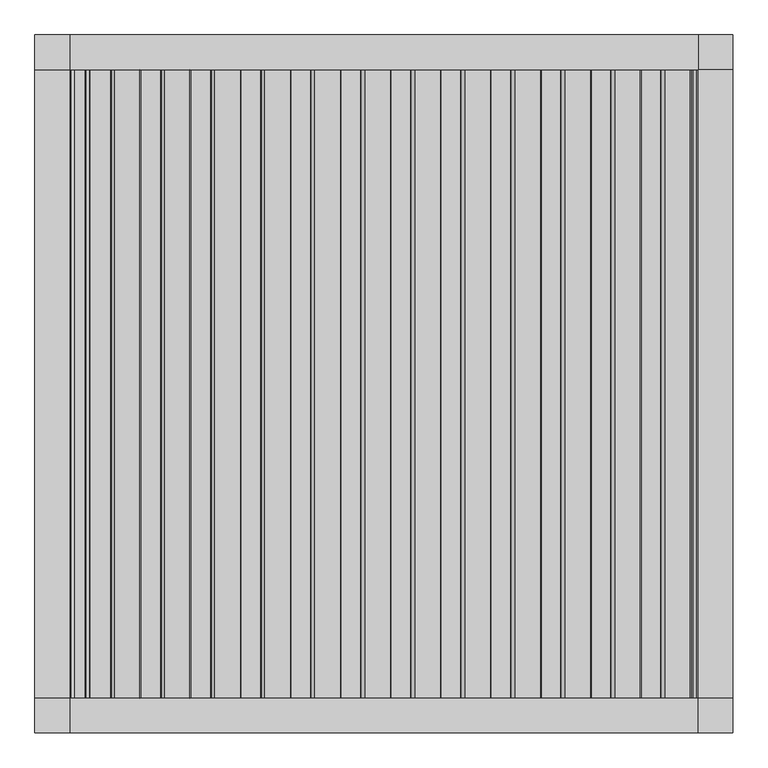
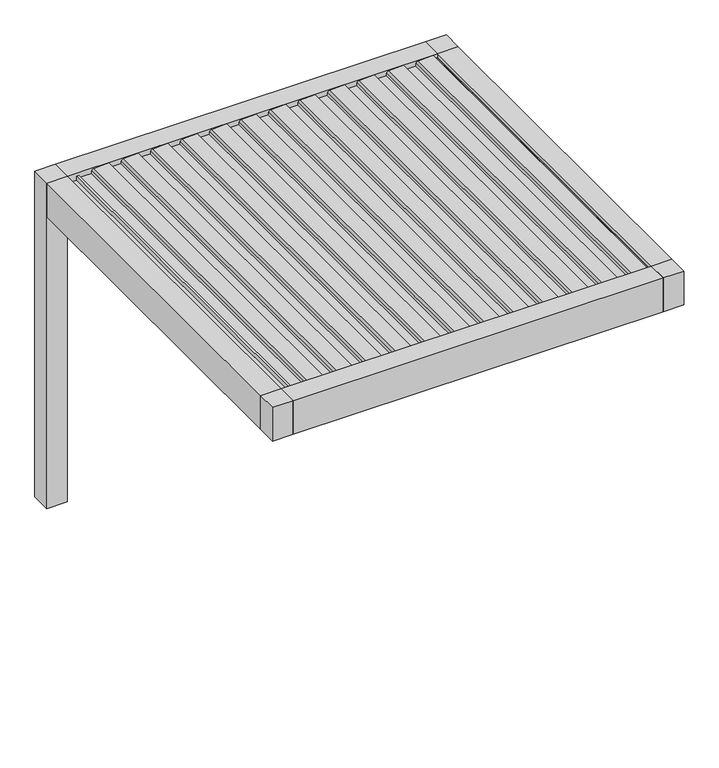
"""IFC4 building model written with IfcOpenShell, lengths in millimetres: proxy geometry, Renson_Camargue_Facade-Mounted_Patio covers : Renson_Camargue_Facade-Mounted_Patio covers."""

from ifc_helpers import new_model, si_unit, point, frame, frame_2d, origin, origin_with_axes, place, context, project, spatial, polyline, circle_curve, trimmed, segment, composite_curve, outline, extrude, source, transform, mapped, element, save


def generic_models_ce49d216(model_context):
    return source(origin(), model_context, "Body", "SweptSolid", [
        extrude(outline(composite_curve([segment(polyline([(2458.35, 1073.7289238), (2486.01198, 1076.1490335), (2487.3970364, 1104.984284), (2506.8911096, 1101.5469529), (2501.6075693, 991.549838)]), True, "CONTINUOUS"), segment(trimmed(circle_curve(frame_2d((2486.6248435, 992.26951)), 15.0), [point((2501.6075693, 991.549838))], [point((2489.2295662, 977.4973937))], False, "CARTESIAN"), True, "CONTINUOUS"), segment(polyline([(2489.2295662, 977.4973937), (2470.0, 974.1067023), (2470.0, 886.3709263), (2487.0788237, 883.3594689), (2486.3450182, 868.0824984), (2458.35, 865.6332517), (2458.35, 1073.7289238)]), True, "CONTINUOUS")], self_intersect=False)), frame((0.0, -1350.0, 0.0), z_axis=(0.0, 1.0, 0.0), x_axis=(0.0, 0.0, 1.0)), (0.0, 0.0, 1.0), 2700.0),
        extrude(outline(composite_curve([segment(polyline([(2458.35, 858.7132078), (2486.01198, 861.1333174), (2487.3970364, 889.9685679), (2506.8911096, 886.5312368), (2501.6075693, 776.534122)]), True, "CONTINUOUS"), segment(trimmed(circle_curve(frame_2d((2486.6248435, 777.2537939)), 15.0), [point((2501.6075693, 776.534122))], [point((2489.2295662, 762.4816776))], False, "CARTESIAN"), True, "CONTINUOUS"), segment(polyline([(2489.2295662, 762.4816776), (2470.0, 759.0909863), (2470.0, 671.3552102), (2487.0788237, 668.3437528), (2486.3450182, 653.0667824), (2458.35, 650.6175356), (2458.35, 858.7132078)]), True, "CONTINUOUS")], self_intersect=False)), frame((0.0, -1350.0, 0.0), z_axis=(0.0, 1.0, 0.0), x_axis=(0.0, 0.0, 1.0)), (0.0, 0.0, 1.0), 2700.0),
        extrude(outline(composite_curve([segment(polyline([(2458.35, 643.6974917), (2486.01198, 646.1176014), (2487.3970364, 674.9528519), (2506.8911096, 671.5155208), (2501.6075693, 561.5184059)]), True, "CONTINUOUS"), segment(trimmed(circle_curve(frame_2d((2486.6248435, 562.2380779)), 15.0), [point((2501.6075693, 561.5184059))], [point((2489.2295662, 547.4659616))], False, "CARTESIAN"), True, "CONTINUOUS"), segment(polyline([(2489.2295662, 547.4659616), (2470.0, 544.0752702), (2470.0, 456.3394942), (2487.0788237, 453.3280368), (2486.3450182, 438.0510663), (2458.35, 435.6018196), (2458.35, 643.6974917)]), True, "CONTINUOUS")], self_intersect=False)), frame((0.0, -1350.0, 0.0), z_axis=(0.0, 1.0, 0.0), x_axis=(0.0, 0.0, 1.0)), (0.0, 0.0, 1.0), 2700.0),
        extrude(outline(composite_curve([segment(polyline([(2458.35, 428.6817757), (2486.01198, 431.1018854), (2487.3970364, 459.9371358), (2506.8911096, 456.4998047), (2501.6075693, 346.5026899)]), True, "CONTINUOUS"), segment(trimmed(circle_curve(frame_2d((2486.6248435, 347.2223618)), 15.0), [point((2501.6075693, 346.5026899))], [point((2489.2295662, 332.4502455))], False, "CARTESIAN"), True, "CONTINUOUS"), segment(polyline([(2489.2295662, 332.4502455), (2470.0, 329.0595542), (2470.0, 241.3237782), (2487.0788237, 238.3123207), (2486.3450182, 223.0353503), (2458.35, 220.5861035), (2458.35, 428.6817757)]), True, "CONTINUOUS")], self_intersect=False)), frame((0.0, -1350.0, 0.0), z_axis=(0.0, 1.0, 0.0), x_axis=(0.0, 0.0, 1.0)), (0.0, 0.0, 1.0), 2700.0),
        extrude(outline(composite_curve([segment(polyline([(2458.35, 213.6660597), (2486.01198, 216.0861693), (2487.3970364, 244.9214198), (2506.8911096, 241.4840887), (2501.6075693, 131.4869738)]), True, "CONTINUOUS"), segment(trimmed(circle_curve(frame_2d((2486.6248435, 132.2066458)), 15.0), [point((2501.6075693, 131.4869738))], [point((2489.2295662, 117.4345295))], False, "CARTESIAN"), True, "CONTINUOUS"), segment(polyline([(2489.2295662, 117.4345295), (2470.0, 114.0438381), (2470.0, 26.3080621), (2487.0788237, 23.2966047), (2486.3450182, 8.0196342), (2458.35, 5.5703875), (2458.35, 213.6660597)]), True, "CONTINUOUS")], self_intersect=False)), frame((0.0, -1350.0, 0.0), z_axis=(0.0, 1.0, 0.0), x_axis=(0.0, 0.0, 1.0)), (0.0, 0.0, 1.0), 2700.0),
        extrude(outline(composite_curve([segment(polyline([(2458.35, -1.3496564), (2486.01198, 1.0704533), (2487.3970364, 29.9057037), (2506.8911096, 26.4683726), (2501.6075693, -83.5287422)]), True, "CONTINUOUS"), segment(trimmed(circle_curve(frame_2d((2486.6248435, -82.8090703)), 15.0), [point((2501.6075693, -83.5287422))], [point((2489.2295662, -97.5811866))], False, "CARTESIAN"), True, "CONTINUOUS"), segment(polyline([(2489.2295662, -97.5811866), (2470.0, -100.9718779), (2470.0, -188.7076539), (2487.0788237, -191.7191114), (2486.3450182, -206.9960818), (2458.35, -209.4453286), (2458.35, -1.3496564)]), True, "CONTINUOUS")], self_intersect=False)), frame((0.0, -1350.0, 0.0), z_axis=(0.0, 1.0, 0.0), x_axis=(0.0, 0.0, 1.0)), (0.0, 0.0, 1.0), 2700.0),
        extrude(outline(composite_curve([segment(polyline([(2458.35, -216.3653724), (2486.01198, -213.9452628), (2487.3970364, -185.1100123), (2506.8911096, -188.5473434), (2501.6075693, -298.5444582)]), True, "CONTINUOUS"), segment(trimmed(circle_curve(frame_2d((2486.6248435, -297.8247863)), 15.0), [point((2501.6075693, -298.5444582))], [point((2489.2295662, -312.5969026))], False, "CARTESIAN"), True, "CONTINUOUS"), segment(polyline([(2489.2295662, -312.5969026), (2470.0, -315.987594), (2470.0, -403.72337), (2487.0788237, -406.7348274), (2486.3450182, -422.0117979), (2458.35, -424.4610446), (2458.35, -216.3653724)]), True, "CONTINUOUS")], self_intersect=False)), frame((0.0, -1350.0, 0.0), z_axis=(0.0, 1.0, 0.0), x_axis=(0.0, 0.0, 1.0)), (0.0, 0.0, 1.0), 2700.0),
        extrude(outline(composite_curve([segment(polyline([(2458.35, -431.3810885), (2486.01198, -428.9609788), (2487.3970364, -400.1257284), (2506.8911096, -403.5630594), (2501.6075693, -513.5601743)]), True, "CONTINUOUS"), segment(trimmed(circle_curve(frame_2d((2486.6248435, -512.8405024)), 15.0), [point((2501.6075693, -513.5601743))], [point((2489.2295662, -527.6126187))], False, "CARTESIAN"), True, "CONTINUOUS"), segment(polyline([(2489.2295662, -527.6126187), (2470.0, -531.00331), (2470.0, -618.739086), (2487.0788237, -621.7505434), (2486.3450182, -637.0275139), (2458.35, -639.4767606), (2458.35, -431.3810885)]), True, "CONTINUOUS")], self_intersect=False)), frame((0.0, -1350.0, 0.0), z_axis=(0.0, 1.0, 0.0), x_axis=(0.0, 0.0, 1.0)), (0.0, 0.0, 1.0), 2700.0),
        extrude(outline(composite_curve([segment(polyline([(2458.35, -646.3968045), (2486.01198, -643.9766949), (2487.3970364, -615.1414444), (2506.8911096, -618.5787755), (2501.6075693, -728.5758903)]), True, "CONTINUOUS"), segment(trimmed(circle_curve(frame_2d((2486.6248435, -727.8562184)), 15.0), [point((2501.6075693, -728.5758903))], [point((2489.2295662, -742.6283347))], False, "CARTESIAN"), True, "CONTINUOUS"), segment(polyline([(2489.2295662, -742.6283347), (2470.0, -746.019026), (2470.0, -833.7548021), (2487.0788237, -836.7662595), (2486.3450182, -852.04323), (2458.35, -854.4924767), (2458.35, -646.3968045)]), True, "CONTINUOUS")], self_intersect=False)), frame((0.0, -1350.0, 0.0), z_axis=(0.0, 1.0, 0.0), x_axis=(0.0, 0.0, 1.0)), (0.0, 0.0, 1.0), 2700.0),
        extrude(outline(composite_curve([segment(polyline([(2458.35, -861.4125206), (2486.01198, -858.9924109), (2487.3970364, -830.1571605), (2506.8911096, -833.5944915), (2501.6075693, -943.5916064)]), True, "CONTINUOUS"), segment(trimmed(circle_curve(frame_2d((2486.6248435, -942.8719345)), 15.0), [point((2501.6075693, -943.5916064))], [point((2489.2295662, -957.6440508))], False, "CARTESIAN"), True, "CONTINUOUS"), segment(polyline([(2489.2295662, -957.6440508), (2470.0, -961.0347421), (2470.0, -1048.7705181), (2487.0788237, -1051.7819755), (2486.3450182, -1067.058946), (2458.35, -1069.5081927), (2458.35, -861.4125206)]), True, "CONTINUOUS")], self_intersect=False)), frame((0.0, -1350.0, 0.0), z_axis=(0.0, 1.0, 0.0), x_axis=(0.0, 0.0, 1.0)), (0.0, 0.0, 1.0), 2700.0),
        extrude(outline(composite_curve([segment(polyline([(2458.35, 1288.7446399), (2486.01198, 1291.1647495), (2487.3970364, 1320.0), (2506.8911096, 1316.5626689), (2501.6075693, 1206.5655541)]), True, "CONTINUOUS"), segment(trimmed(circle_curve(frame_2d((2486.6248435, 1207.285226)), 15.0), [point((2501.6075693, 1206.5655541))], [point((2489.2295662, 1192.5131097))], False, "CARTESIAN"), True, "CONTINUOUS"), segment(polyline([(2489.2295662, 1192.5131097), (2470.0, 1189.1224184), (2470.0, 1101.3866423), (2487.0788237, 1098.3751849), (2486.3450182, 1083.0982144), (2458.35, 1080.6489677), (2458.35, 1288.7446399)]), True, "CONTINUOUS")], self_intersect=False)), frame((0.0, -1350.0, 0.0), z_axis=(0.0, 1.0, 0.0), x_axis=(0.0, 0.0, 1.0)), (0.0, 0.0, 1.0), 2700.0),
        extrude(outline(composite_curve([segment(polyline([(2458.35, -1076.4282366), (2486.01198, -1074.008127), (2487.3970364, -1045.1728765), (2506.8911096, -1048.6102076), (2501.6075693, -1158.6073224)]), True, "CONTINUOUS"), segment(trimmed(circle_curve(frame_2d((2486.6248435, -1157.8876505)), 15.0), [point((2501.6075693, -1158.6073224))], [point((2489.2295662, -1172.6597668))], False, "CARTESIAN"), True, "CONTINUOUS"), segment(polyline([(2489.2295662, -1172.6597668), (2470.0, -1176.0504581), (2470.0, -1263.7862342), (2487.0788237, -1266.7976916), (2486.3450182, -1282.0746621), (2458.35, -1284.5239088), (2458.35, -1076.4282366)]), True, "CONTINUOUS")], self_intersect=False)), frame((0.0, -1350.0, 0.0), z_axis=(0.0, 1.0, 0.0), x_axis=(0.0, 0.0, 1.0)), (0.0, 0.0, 1.0), 2700.0),
        extrude(outline(polyline([(-1350.0, 1500.0), (-1350.0, 1350.0), (-1500.0, 1350.0), (-1500.0, 1500.0), (-1350.0, 1500.0)])), origin_with_axes(), (0.0, 0.0, 1.0), 2510.0),
        extrude(outline(polyline([(-1350.0, -1500.0), (-1500.0, -1500.0), (-1500.0, -1350.0), (-1350.0, -1350.0), (-1350.0, -1500.0)])), frame((0.0, 0.0, 2250.0), z_axis=(0.0, 0.0, 1.0), x_axis=(1.0, 0.0, 0.0)), (0.0, 0.0, 1.0), 260.0),
        extrude(outline(polyline([(1500.0, -1500.0), (1350.0, -1500.0), (1350.0, -1350.0), (1500.0, -1350.0), (1500.0, -1500.0)])), frame((0.0, 0.0, 2250.0), z_axis=(0.0, 0.0, 1.0), x_axis=(1.0, 0.0, 0.0)), (0.0, 0.0, 1.0), 260.0),
        extrude(outline(polyline([(2441.6559373, -1350.0), (2441.6559373, -1290.0), (2455.6555802, -1286.2487113), (2455.6555802, -1329.5940945), (2471.400763, -1345.0), (2479.2449277, -1345.0), (2479.6823598, -1350.0), (2441.6559373, -1350.0)])), frame((0.0, -1350.0, 0.0), z_axis=(0.0, 1.0, 0.0), x_axis=(0.0, 0.0, 1.0)), (0.0, 0.0, 1.0), 2700.0),
        extrude(outline(polyline([(-1350.0, -1350.0), (-1500.0, -1350.0), (-1500.0, 1350.0), (-1350.0, 1350.0), (-1350.0, -1350.0)])), frame((0.0, 0.0, 2250.0), z_axis=(0.0, 0.0, 1.0), x_axis=(1.0, 0.0, 0.0)), (0.0, 0.0, 1.0), 260.0),
        extrude(outline(polyline([(2510.0, 1500.0), (2510.0, 1350.0), (2479.6904658, 1350.0), (2479.2449277, 1345.0), (2471.400763, 1345.0), (2455.6555802, 1329.2544156), (2455.6555802, 1319.9090324), (2441.6559373, 1323.6603211), (2441.6559373, 1350.0), (2250.0, 1350.0), (2250.0, 1500.0), (2510.0, 1500.0)])), frame((0.0, -1350.0, 0.0), z_axis=(0.0, 1.0, 0.0), x_axis=(0.0, 0.0, 1.0)), (0.0, 0.0, 1.0), 2700.0),
        extrude(outline(polyline([(-1350.0, 2510.0), (-1350.0, 2322.0), (-1280.0000001, 2322.0), (-1280.0000001, 2250.0), (-1500.0, 2250.0), (-1500.0, 2510.0), (-1350.0, 2510.0)])), frame((-1350.0, 0.0, 0.0), z_axis=(1.0, 0.0, 0.0), x_axis=(0.0, 1.0, 0.0)), (0.0, 0.0, 1.0), 2700.0),
        extrude(outline(polyline([(1500.0, 2250.0), (1280.0000001, 2250.0), (1280.0000001, 2322.0), (1350.0, 2322.0), (1350.0, 2510.0), (1500.0, 2510.0), (1500.0, 2250.0)])), frame((-1350.0, 0.0, 0.0), z_axis=(1.0, 0.0, 0.0), x_axis=(0.0, 1.0, 0.0)), (0.0, 0.0, 1.0), 2700.0),
        extrude(outline(polyline([(1500.0, 1500.0), (1500.0, 1350.0), (1350.0, 1350.0), (1350.0, 1500.0), (1500.0, 1500.0)])), origin_with_axes(), (0.0, 0.0, 1.0), 2510.0),
    ])


if __name__ == "__main__":
    model = new_model("IFC4")
    model_context = context("Model", 3, world=origin())
    ifc_project = project(units=[si_unit("LENGTHUNIT", "METRE", prefix="MILLI")], contexts=[model_context])
    site = spatial("IfcSite", under=ifc_project)
    building = spatial("IfcBuilding", under=site)
    placement = place(None, origin())
    generic_models_shape = generic_models_ce49d216(model_context)
    element("IfcBuildingElementProxy", 1, Name="Renson_Camargue_Facade-Mounted_Patio covers : Renson_Camargue_Facade-Mounted_Patio covers", ObjectType="Renson_Camargue_Facade-Mounted_Patio covers : Renson_Camargue_Facade-Mounted_Patio covers", at=placement, inside=building, context=model_context, shape_type="MappedRepresentation", body=[
        mapped(generic_models_shape, transform((0.0, 0.0, 0.0), x_axis=(1.0, 0.0, 0.0), y_axis=(0.0, 1.0, 0.0), z_axis=(0.0, 0.0, 1.0))),
    ])
    save(model, "model.ifc")
